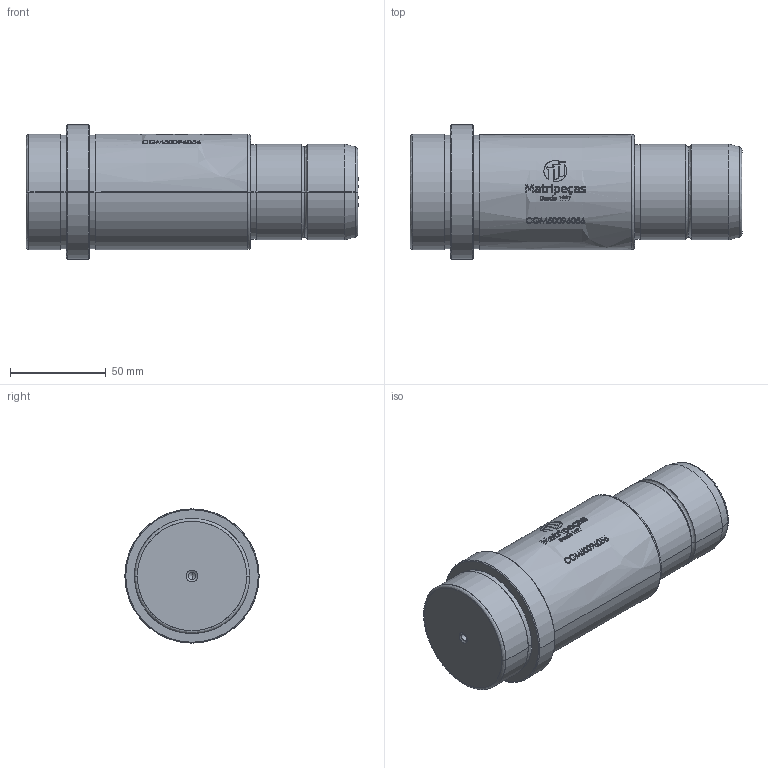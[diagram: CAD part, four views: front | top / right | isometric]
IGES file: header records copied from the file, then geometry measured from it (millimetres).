
Start section: SolidWorks IGES file using analytic representation for surfaces
Global section: file name: E:\1.TRIVECTOR\Clientes\MATRIPEÇAS\PEÇAS_CATALOGO_SITE\6.CGM - COLUNA PRINCIPAL TIPO GUIA (CATÁLOGO)\CGM50096056.IGS; native system: SolidWorks 2024; preprocessor: SolidWorks 2024; author: Gabriel Techio; date: 260911.153718; units: millimetre
Bounding box: 173 x 70 x 70 mm (x, y, z)
Surface area: 39161.1 mm2 (no closed solid volume)
Topology: 0 solids, 0 shells, 493 faces, 6565 edges, 6561 vertices
Faces by surface type: bspline 410, revolution 83
